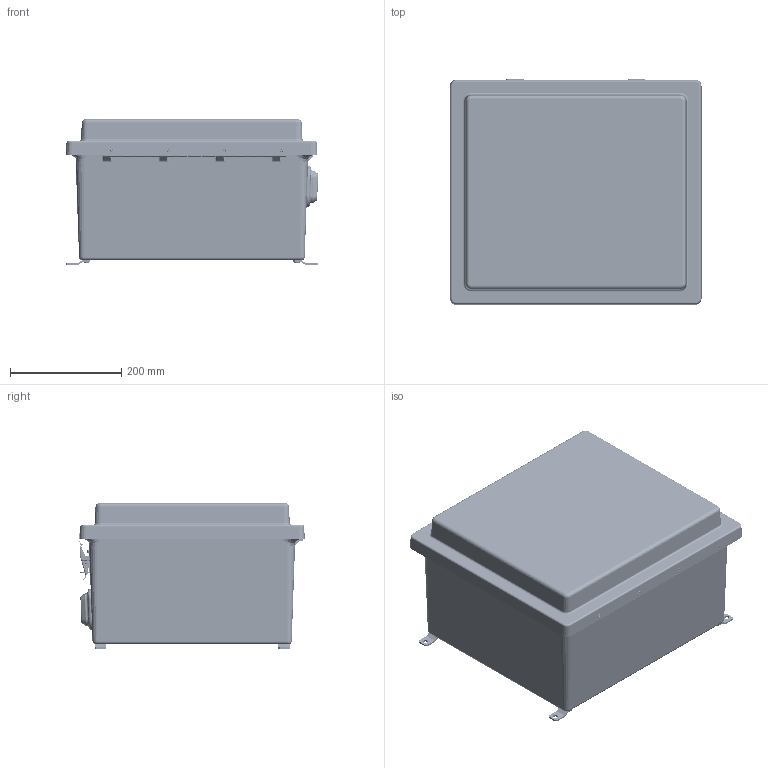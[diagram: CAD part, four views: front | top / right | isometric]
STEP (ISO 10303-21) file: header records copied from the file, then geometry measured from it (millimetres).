
FILE_DESCRIPTION(/* description */ ('STEP AP242','CAx-IF Rec.Pracs.---Representation and Presentation of Product Manufacturing Information (PMI)---4.0---2014-10-13','CAx-IF Rec.Pracs.---3D Tessellated Geometry---0.4---2014-09-14','2;1'),/* implementation_level */ '2;1');
FILE_NAME(/* name */ '62a1394ebdef4459bab237ee',/* time_stamp */ '2022-06-09T00:05:43+00:00',/* author */ (''),/* organization */ (''),/* preprocessor_version */ 'ST-DEVELOPER v18.102',/* originating_system */ ' ',/* authorisation */ ' ');
FILE_SCHEMA (('AP242_MANAGED_MODEL_BASED_3D_ENGINEERING_MIM_LF { 1 0 10303 442 1 1 4 }'));
Products named in the file (78): RLH-161408-F-1 - Fiberglass Cabinet - 16" x 14" x 8"; 70-60512316; Pan head machine screw #8-32 x 0.5; 13in pin; Pan head machine screw #10-32 x 0.75; 55-1032716_SL-PHMS 0.19-32x0.3125x0.3125-N_3; WFOOT; 621-06 hook316; WLGKEEPER316_1; 70-63238316_95345A468_3; Type A flat washer #10; 70-632TNUT; 621-05 Rivet (f)316; 60802 bottom leaf; WVENT4X; 70-632DUALNUT; 70-63238316_95345A468_5; 70-60512316_4; 70-60512316_2; 70-63238316_95345A468_4; No. 10 Bus Screw_4; 70-632DUALNUT_1; 70-60512316_6; 621-02  BASE316; 70-60512316_5; 70-60512316_3; WFOOT_1; WFOOT_3; Type A flat washer #12; 15.5" x 13.5" Treated 3/4" Plywood Backboard for 18x16 Fiberglas
s  Cabinets; 70-632TNUT_3; 55-1032716_SL-PHMS 0.19-32x0.3125x0.3125-N; 70-63238316_95345A468_6; 70-60512316_1; 60802 top leaf; 70-63238316_95345A468; 70-632TNUT_2; 55-1032716_SL-PHMS 0.19-32x0.3125x0.3125-N_1; 70-60512316_7; Pan head machine screw #12-24 x 0.75 ...
Assembly tree (94 placements, depth 2):
  RLH-161408-F-1 - Fiberglass Cabinet - 16" x 14" x 8"
    70-60512316
    Pan head machine screw #8-32 x 0.5  x8
    13in pin
    Pan head machine screw #10-32 x 0.75  x4
    55-1032716_SL-PHMS 0.19-32x0.3125x0.3125-N_3
    WFOOT
    621-06 hook316
    WLGKEEPER316_1
    70-63238316_95345A468_3
    Type A flat washer #10  x4
    70-632TNUT
    621-05 Rivet (f)316
    60802 bottom leaf
    WVENT4X  x2
    70-632DUALNUT
    70-63238316_95345A468_5
    70-60512316_4
    70-60512316_2
    70-63238316_95345A468_4
    No. 10 Bus Screw_4
    70-632DUALNUT_1
    70-60512316_6
    621-02  BASE316
    70-60512316_5
    70-60512316_3
    WFOOT_1
    WFOOT_3
    Type A flat washer #12  x2
    15.5" x 13.5" Treated 3/4" Plywood Backboard for 18x16 Fiberglas
s  Cabinets
    70-632TNUT_3
    55-1032716_SL-PHMS 0.19-32x0.3125x0.3125-N
    70-63238316_95345A468_6
    70-60512316_1
    60802 top leaf
    70-63238316_95345A468
    70-632TNUT_2
    55-1032716_SL-PHMS 0.19-32x0.3125x0.3125-N_1
    70-60512316_7
    Pan head machine screw #12-24 x 0.75  x2
    70-63238316_95345A468_2
    621-04 Rivet (f)316
    Wall Mount Bracket
    70-63238316_95345A468_5
    70-632TNUT_1
    LABEL-PRODUCT ID
    P-052 - ID Plate
    70-63238316_95345A468_7
    70-63238316_95345A468
    70-63238316_95345A468_1
    621-01 Lever316_1
    621-05 Rivet (f)316_1
    WLGKEEPER316
    937 D-40309
    70-63238316_95345A468_2
    621-04 Rivet (f)316_1
    70-63238316_95345A468_3
    Groundinig Bus Bar - 7 Position
    5/16 Bus Screw
    693 D-40147_SMC PART
Bounding box: 454.42 x 407.9 x 261.98 mm (x, y, z)
Volume: 5256666.3 mm3; surface area: 2111282.6 mm2
Topology: 94 solids, 94 shells, 6555 faces, 17780 edges, 11581 vertices
Faces by surface type: plane 2657, cylinder 1506, bspline 1490, torus 501, cone 321, sphere 80
Full cylindrical faces by diameter (mm): 0.412 x2, 0.525 x2, 0.914 x2, 1.016 x2, 1.334 x2, 1.435 x2, 1.93 x8, 2.286 x12, 2.642 x4, 2.705 x4, 3.048 x1, 3.15 x4, 3.175 x8, 3.353 x4, 3.429 x20, 3.505 x10, 3.607 x4, 3.658 x4, 3.81 x4, 3.969 x2, 4.064 x8, 4.166 x8, 4.191 x8, 4.445 x4, 4.572 x3, 4.724 x4, 4.763 x10, 4.775 x4, 4.826 x69, 4.869 x2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
Entity records: 197980 total; most frequent: CARTESIAN_POINT 85584, ORIENTED_EDGE 24750, DIRECTION 19726, EDGE_CURVE 12375, VERTEX_POINT 8452, AXIS2_PLACEMENT_3D 6963, FACE_BOUND 5815, EDGE_LOOP 5805
